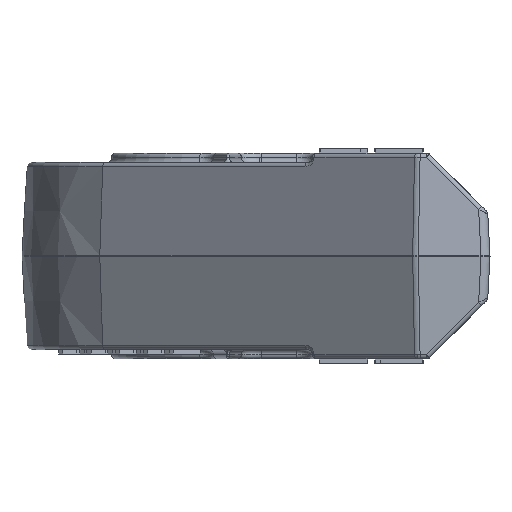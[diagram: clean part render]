
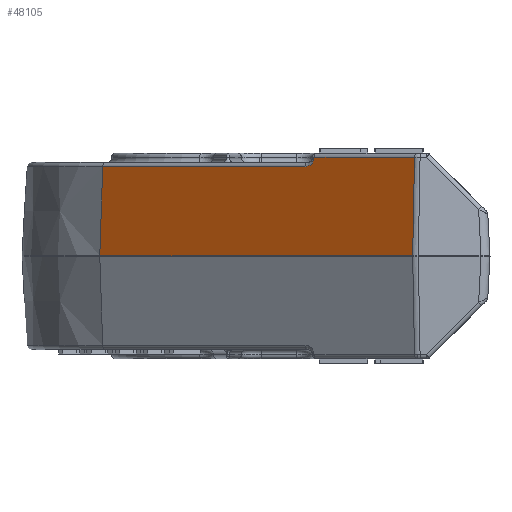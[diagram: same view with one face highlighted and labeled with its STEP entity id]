
A CAD part, left-side view. The second image highlights one B-rep face of the part: STEP entity #48105.
In plain terms, the highlighted planar face has unit normal (-0.782, 0.621, 0.052).
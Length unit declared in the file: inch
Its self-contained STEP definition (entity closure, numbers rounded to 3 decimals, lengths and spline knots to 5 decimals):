
#113 = CARTESIAN_POINT ( 'NONE',  ( -1.08459, -0.28707, 0.32572 ) ) ;
#1762 = EDGE_CURVE ( 'NONE', #10166, #9327, #47642, .T. ) ;
#1827 = CARTESIAN_POINT ( 'NONE',  ( -1.08459, -0.28707, 0.32572 ) ) ;
#2248 = CARTESIAN_POINT ( 'NONE',  ( -1.08442, -0.28718, 0.32954 ) ) ;
#4558 = FACE_OUTER_BOUND ( 'NONE', #5960, .T. ) ;
#5960 = EDGE_LOOP ( 'NONE', ( #17471, #28536, #23831, #47393, #46611, #25369, #12732, #21476 ) ) ;
#6849 = CARTESIAN_POINT ( 'NONE',  ( -0.53813, 0.42773, 0.00157 ) ) ;
#6938 = EDGE_CURVE ( 'NONE', #8545, #47342, #24974, .T. ) ;
#8045 = CARTESIAN_POINT ( 'NONE',  ( -1.08459, -0.28569, 0.30935 ) ) ;
#8487 = CARTESIAN_POINT ( 'NONE',  ( -1.08555, -0.28718, 0.31275 ) ) ;
#8545 = VERTEX_POINT ( 'NONE', #15327 ) ;
#9327 = VERTEX_POINT ( 'NONE', #2248 ) ;
#9441 = EDGE_CURVE ( 'NONE', #9327, #17666, #17754, .T. ) ;
#10166 = VERTEX_POINT ( 'NONE', #37325 ) ;
#10707 = CARTESIAN_POINT ( 'NONE',  ( -0.53813, 0.42773, 0.00157 ) ) ;
#10942 = PLANE ( 'NONE',  #48994 ) ;
#11351 = CARTESIAN_POINT ( 'NONE',  ( -1.08451, -0.28718, 0.32824 ) ) ;
#12454 = VECTOR ( 'NONE', #45835, 39.37008 ) ;
#12732 = ORIENTED_EDGE ( 'NONE', *, *, #6938, .T. ) ;
#13015 = VERTEX_POINT ( 'NONE', #41521 ) ;
#14294 = VECTOR ( 'NONE', #15105, 39.37008 ) ;
#14743 = CARTESIAN_POINT ( 'NONE',  ( -0.52409, 0.41657, 0.34375 ) ) ;
#15105 = DIRECTION ( 'NONE',  ( 0.052, -0.018, 0.998 ) ) ;
#15327 = CARTESIAN_POINT ( 'NONE',  ( -1.06267, -0.25718, 0.29824 ) ) ;
#16237 = VERTEX_POINT ( 'NONE', #1827 ) ;
#17223 = EDGE_CURVE ( 'NONE', #8545, #16237, #30658, .T. ) ;
#17471 = ORIENTED_EDGE ( 'NONE', *, *, #47065, .T. ) ;
#17666 = VERTEX_POINT ( 'NONE', #11351 ) ;
#17754 = LINE ( 'NONE', #8487, #12454 ) ;
#18188 = CARTESIAN_POINT ( 'NONE',  ( -1.08405, -0.28672, 0.32954 ) ) ;
#18680 = EDGE_CURVE ( 'NONE', #47342, #26594, #36234, .T. ) ;
#19108 =( BOUNDED_CURVE ( )  B_SPLINE_CURVE ( 3, ( #40620, #44603, #26601, #26916 ),
 .UNSPECIFIED., .F., .T. ) 
 B_SPLINE_CURVE_WITH_KNOTS ( ( 4, 4 ),
 ( 0., 0.08403 ),
 .UNSPECIFIED. ) 
 CURVE ( )  GEOMETRIC_REPRESENTATION_ITEM ( )  RATIONAL_B_SPLINE_CURVE ( ( 1., 0.999, 0.999, 1. ) ) 
 REPRESENTATION_ITEM ( '' )  );
#19139 = CARTESIAN_POINT ( 'NONE',  ( -1.07573, -0.2736, 0.29824 ) ) ;
#19356 = CARTESIAN_POINT ( 'NONE',  ( -1.34921, -0.62355, 0.36797 ) ) ;
#21476 = ORIENTED_EDGE ( 'NONE', *, *, #18680, .T. ) ;
#22979 = CARTESIAN_POINT ( 'NONE',  ( -1.06267, -0.25718, 0.29824 ) ) ;
#23124 = CARTESIAN_POINT ( 'NONE',  ( -0.52409, 0.41657, 0.34375 ) ) ;
#23831 = ORIENTED_EDGE ( 'NONE', *, *, #1762, .T. ) ;
#24974 = LINE ( 'NONE', #48217, #47978 ) ;
#25189 = VECTOR ( 'NONE', #48431, 39.37008 ) ;
#25369 = ORIENTED_EDGE ( 'NONE', *, *, #17223, .F. ) ;
#25448 = DIRECTION ( 'NONE',  ( -0.622, -0.783, 0. ) ) ;
#25522 = EDGE_CURVE ( 'NONE', #13015, #10166, #26704, .T. ) ;
#26594 = VERTEX_POINT ( 'NONE', #6849 ) ;
#26601 = CARTESIAN_POINT ( 'NONE',  ( -1.08457, -0.28718, 0.32739 ) ) ;
#26704 = LINE ( 'NONE', #19356, #14294 ) ;
#26916 = CARTESIAN_POINT ( 'NONE',  ( -1.08451, -0.28718, 0.32824 ) ) ;
#28536 = ORIENTED_EDGE ( 'NONE', *, *, #25522, .T. ) ;
#30658 =( BOUNDED_CURVE ( )  B_SPLINE_CURVE ( 3, ( #22979, #19139, #8045, #113 ),
 .UNSPECIFIED., .F., .F. ) 
 B_SPLINE_CURVE_WITH_KNOTS ( ( 4, 4 ),
 ( 4.79642, 6.28319 ),
 .UNSPECIFIED. ) 
 CURVE ( )  GEOMETRIC_REPRESENTATION_ITEM ( )  RATIONAL_B_SPLINE_CURVE ( ( 1., 0.824, 0.824, 1. ) ) 
 REPRESENTATION_ITEM ( '' )  );
#33707 = VECTOR ( 'NONE', #25448, 39.37008 ) ;
#35490 = LINE ( 'NONE', #10707, #33707 ) ;
#36234 = LINE ( 'NONE', #23124, #37388 ) ;
#37325 = CARTESIAN_POINT ( 'NONE',  ( -1.35122, -0.62284, 0.32954 ) ) ;
#37388 = VECTOR ( 'NONE', #37652, 39.37008 ) ;
#37510 = DIRECTION ( 'NONE',  ( 0., 0.084, -0.996 ) ) ;
#37652 = DIRECTION ( 'NONE',  ( -0.041, 0.033, -0.999 ) ) ;
#38251 = CARTESIAN_POINT ( 'NONE',  ( -0.52596, 0.41806, 0.29824 ) ) ;
#39884 = EDGE_CURVE ( 'NONE', #16237, #17666, #19108, .T. ) ;
#40620 = CARTESIAN_POINT ( 'NONE',  ( -1.08459, -0.28707, 0.32572 ) ) ;
#41139 = DIRECTION ( 'NONE',  ( 0.782, -0.621, -0.052 ) ) ;
#41521 = CARTESIAN_POINT ( 'NONE',  ( -1.36841, -0.61684, 0.00157 ) ) ;
#44603 = CARTESIAN_POINT ( 'NONE',  ( -1.08459, -0.28714, 0.32655 ) ) ;
#45835 = DIRECTION ( 'NONE',  ( -0.067, 0., -0.998 ) ) ;
#46611 = ORIENTED_EDGE ( 'NONE', *, *, #39884, .F. ) ;
#47065 = EDGE_CURVE ( 'NONE', #26594, #13015, #35490, .T. ) ;
#47342 = VERTEX_POINT ( 'NONE', #38251 ) ;
#47393 = ORIENTED_EDGE ( 'NONE', *, *, #9441, .T. ) ;
#47642 = LINE ( 'NONE', #18188, #25189 ) ;
#47978 = VECTOR ( 'NONE', #48700, 39.37008 ) ;
#48105 = ADVANCED_FACE ( 'NONE', ( #4558 ), #10942, .F. ) ;
#48217 = CARTESIAN_POINT ( 'NONE',  ( -0.52596, 0.41806, 0.29824 ) ) ;
#48431 = DIRECTION ( 'NONE',  ( 0.622, 0.783, 0. ) ) ;
#48700 = DIRECTION ( 'NONE',  ( 0.622, 0.783, 0. ) ) ;
#48994 = AXIS2_PLACEMENT_3D ( 'NONE', #14743, #41139, #37510 ) ;
